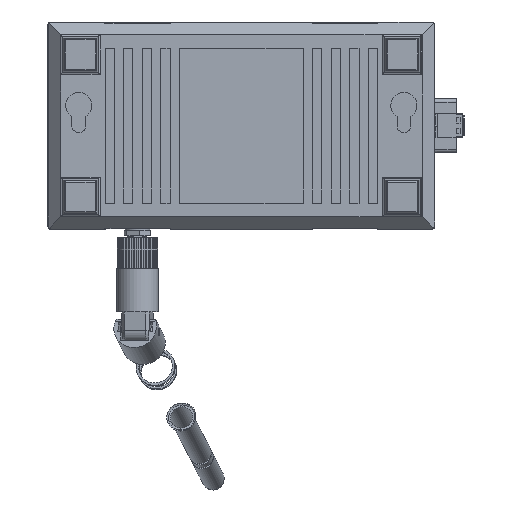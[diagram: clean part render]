
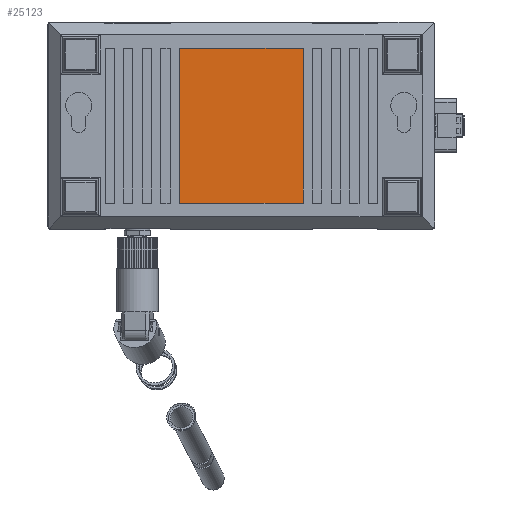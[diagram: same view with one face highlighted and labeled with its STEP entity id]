
A CAD part, top view. The second image highlights one B-rep face of the part: STEP entity #25123.
In plain terms, the highlighted planar face has unit normal (0, 0, 1).
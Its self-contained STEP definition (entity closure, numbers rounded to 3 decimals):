
#2394=FACE_OUTER_BOUND('',#3740,.T.);
#3740=EDGE_LOOP('',(#21298,#21299,#21300,#21301));
#6000=LINE('',#48085,#8326);
#6004=LINE('',#48093,#8330);
#6007=LINE('',#48099,#8333);
#6010=LINE('',#48104,#8336);
#8326=VECTOR('',#32741,39.991);
#8330=VECTOR('',#32747,50.);
#8333=VECTOR('',#32752,39.991);
#8336=VECTOR('',#32757,50.);
#11154=VERTEX_POINT('',#48083);
#11155=VERTEX_POINT('',#48084);
#11158=VERTEX_POINT('',#48092);
#11160=VERTEX_POINT('',#48098);
#14581=EDGE_CURVE('',#11154,#11155,#6000,.T.);
#14585=EDGE_CURVE('',#11155,#11158,#6004,.T.);
#14588=EDGE_CURVE('',#11158,#11160,#6007,.T.);
#14591=EDGE_CURVE('',#11160,#11154,#6010,.T.);
#21298=ORIENTED_EDGE('',*,*,#14581,.T.);
#21299=ORIENTED_EDGE('',*,*,#14585,.T.);
#21300=ORIENTED_EDGE('',*,*,#14588,.T.);
#21301=ORIENTED_EDGE('',*,*,#14591,.T.);
#22657=PLANE('',#27008);
#25123=ADVANCED_FACE('',(#2394),#22657,.T.);
#27008=AXIS2_PLACEMENT_3D('',#48106,#32759,#32760);
#32741=DIRECTION('',(1.,0.,0.));
#32747=DIRECTION('',(0.,1.,0.));
#32752=DIRECTION('',(-1.,0.,0.));
#32757=DIRECTION('',(0.,-1.,0.));
#32759=DIRECTION('center_axis',(0.,0.,1.));
#32760=DIRECTION('ref_axis',(-1.,0.,0.));
#48083=CARTESIAN_POINT('',(-7.489,-31.503,6.7));
#48084=CARTESIAN_POINT('',(32.502,-31.501,6.7));
#48085=CARTESIAN_POINT('',(-7.489,-31.503,6.7));
#48092=CARTESIAN_POINT('',(32.5,18.499,6.7));
#48093=CARTESIAN_POINT('',(32.502,-31.501,6.7));
#48098=CARTESIAN_POINT('',(-7.491,18.497,6.7));
#48099=CARTESIAN_POINT('',(32.5,18.499,6.7));
#48104=CARTESIAN_POINT('',(-7.491,18.497,6.7));
#48106=CARTESIAN_POINT('Origin',(12.505,-6.502,6.7));
